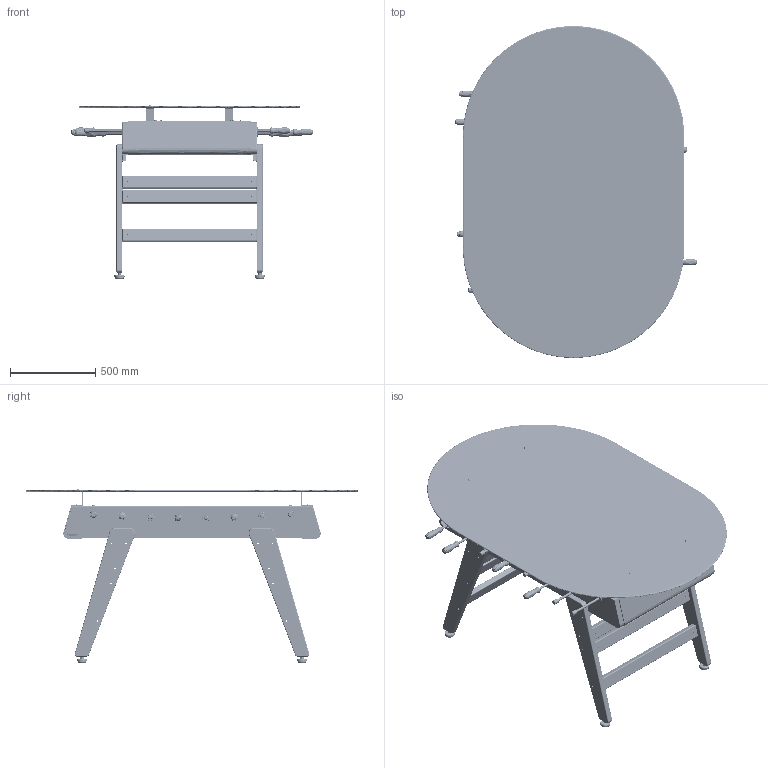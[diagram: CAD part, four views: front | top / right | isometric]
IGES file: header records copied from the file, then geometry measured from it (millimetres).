
Start section: START RECORD GO HERE.
Global section: file name: dining_rs#3_wood_dining_ovalada.igs; native system: DASSAULT SYSTEMES CATIA Version 5-6 Release 2017 - www.3ds.com; preprocessor: V5-6R2017_5.27.0.0.10-19-2016.20.00; author: ingenieria; organization: RAFA-PC; date: 20200804.165153; units: millimetre
Bounding box: 1422.81 x 1950 x 1019.37 mm (x, y, z)
Surface area: 16174889.4 mm2 (no closed solid volume)
Topology: 0 solids, 0 shells, 9894 faces, 47048 edges, 46872 vertices
Faces by surface type: revolution 5026, plane 4468, bspline 400
